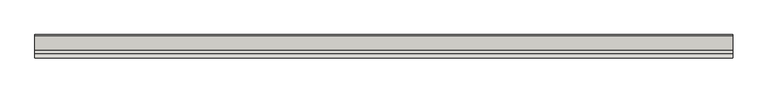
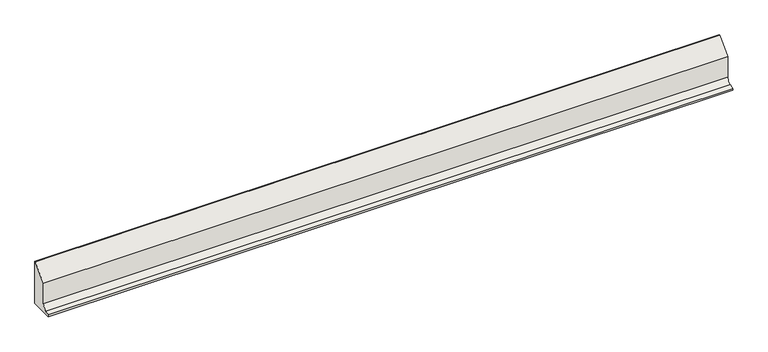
"""IFC4 building model written with IfcOpenShell, lengths in millimetres: wall geometry, GM_ST_WPB_ACO kerb SS straight_ACO : S/S H300."""

from ifc_helpers import new_model, si_unit, point, frame, frame_2d, origin, place, context, project, spatial, polyline, circle_curve, trimmed, segment, composite_curve, outline, extrude, source, transform, mapped, element, save


def wall_cad0f0ff(model_context):
    return source(origin(), model_context, "Body", "SweptSolid", [
        extrude(outline(composite_curve([segment(polyline([(-154.9291966, 0.0), (-154.9291966, 11.977476), (-126.1987698, 22.4886008)]), True, "CONTINUOUS"), segment(trimmed(circle_curve(frame_2d((-139.9420231, 60.0535178)), 40.0), [point((-126.1987698, 22.4886008))], [point((-99.9420231, 60.0535178))], True, "CARTESIAN"), True, "CONTINUOUS"), segment(polyline([(-99.9420231, 60.0535178), (-99.9420231, 204.9637441), (-4.952669, 299.9530982), (0.0, 299.9530982), (0.0, 0.0), (-154.9291966, 0.0)]), True, "CONTINUOUS")], self_intersect=False)), frame((0.0, 0.0, 0.0), z_axis=(1.0, 0.0, 0.0), x_axis=(0.0, 1.0, 0.0)), (0.0, 0.0, 1.0), 4600.0),
    ])


if __name__ == "__main__":
    model = new_model("IFC4")
    model_context = context("Model", 3, world=origin())
    ifc_project = project(units=[si_unit("LENGTHUNIT", "METRE", prefix="MILLI")], contexts=[model_context])
    site = spatial("IfcSite", under=ifc_project)
    building = spatial("IfcBuilding", under=site)
    placement = place(None, origin())
    wall_shape = wall_cad0f0ff(model_context)
    element("IfcWall", 1, ObjectType="GM_ST_WPB_ACO kerb SS straight_ACO : S/S H300", at=placement, inside=building, context=model_context, shape_type="MappedRepresentation", body=[
        mapped(wall_shape, transform((0.0, 0.0, 0.0), x_axis=(1.0, 0.0, 0.0), y_axis=(0.0, 1.0, 0.0), z_axis=(0.0, 0.0, 1.0))),
    ])
    save(model, "model.ifc")
